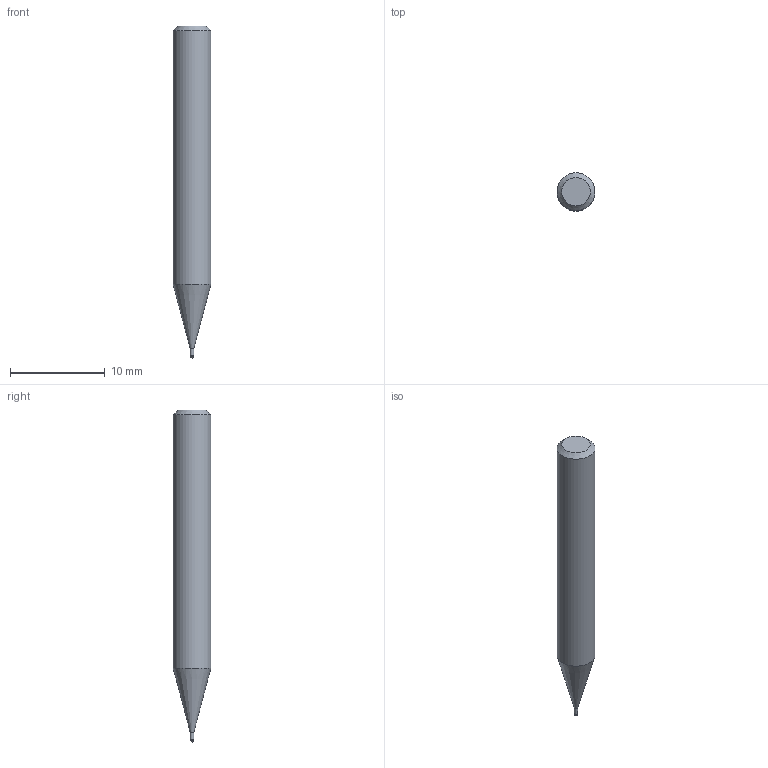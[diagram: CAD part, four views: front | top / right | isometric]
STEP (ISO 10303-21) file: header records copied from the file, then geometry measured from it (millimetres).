
FILE_DESCRIPTION((''),'2;1');
FILE_NAME('C:\Users\nsx150\AppData\Local\Temp\Mastercam 2021\QT8KEW0Y7J\TEMP.step','2021-04-23T11:20:32',(''),(''),'STEP Write','Mastercam 2021 ... CNC Software, Inc.','');
FILE_SCHEMA(('AUTOMOTIVE_DESIGN'));
Length unit declared in the file: millimetre
Products named in the file (1): None
Bounding box: 4 x 4 x 35 mm (x, y, z)
Volume: 372 mm3; surface area: 400.3 mm2
Topology: 2 solids, 2 shells, 9 faces, 14 edges, 8 vertices
Faces by surface type: plane 3, cylinder 3, cone 2, sphere 1
Full cylindrical faces by diameter (mm): 0.37 x1, 0.4 x1, 4 x1
Entity records: 211 total; most frequent: DIRECTION 36, CARTESIAN_POINT 25, AXIS2_PLACEMENT_3D 18, ORIENTED_EDGE 14, EDGE_LOOP 14, STYLED_ITEM 12, ADVANCED_FACE 9, FACE_BOUND 8
